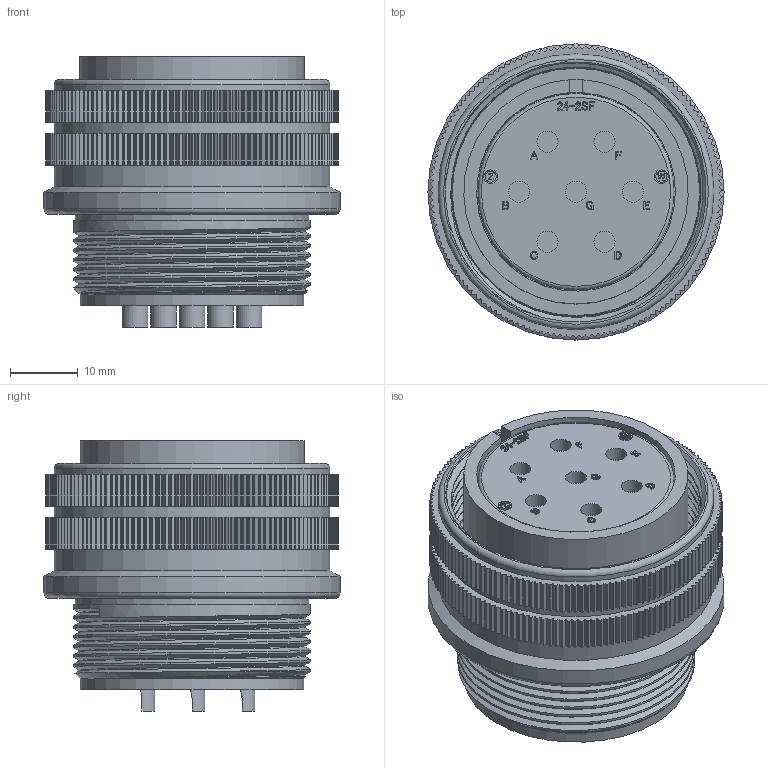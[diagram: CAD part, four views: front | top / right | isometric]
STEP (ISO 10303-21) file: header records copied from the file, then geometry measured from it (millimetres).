
FILE_DESCRIPTION (( 'STEP AP203' ), '1' );
FILE_NAME ('DMS3106A24-2S(D190).STEP', '2021-03-22T01:32:10', ( '' ), ( '' ), 'SwSTEP 2.0', 'SolidWorks 2018', '' );
FILE_SCHEMA (( 'CONFIG_CONTROL_DESIGN' ));
Length unit declared in the file: millimetre
Products named in the file (1): DMS3106A24-2S(D190)
Bounding box: 43.58 x 43.58 x 39.75 mm (x, y, z)
Volume: 35283.1 mm3; surface area: 20208.4 mm2
Topology: 1 solids, 1 shells, 2383 faces, 6888 edges, 4587 vertices
Faces by surface type: cylinder 1221, plane 922, bspline 234, cone 3, torus 3
Full cylindrical faces by diameter (mm): 1.6 x2, 2 x2, 2.85 x7, 3.1 x7, 3.79 x7, 3.9 x7, 7.18 x1, 26.21 x1, 28.85 x1, 29.24 x1, 30.75 x1, 32.9 x1, 34.41 x1, 34.88 x6, 35 x1, 36.42 x1, 36.65 x1, 37.16 x1, 40.59 x3, 43.58 x1
Entity records: 88933 total; most frequent: CARTESIAN_POINT 25836, ORIENTED_EDGE 13608, DIRECTION 13024, EDGE_CURVE 6804, AXIS2_PLACEMENT_3D 4570, VERTEX_POINT 4561, LINE 3884, VECTOR 3884
